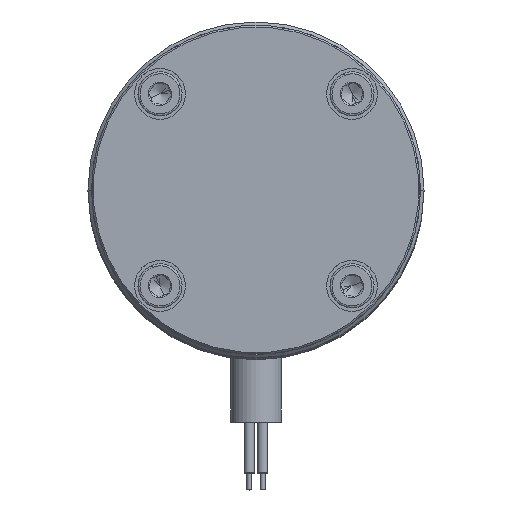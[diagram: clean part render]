
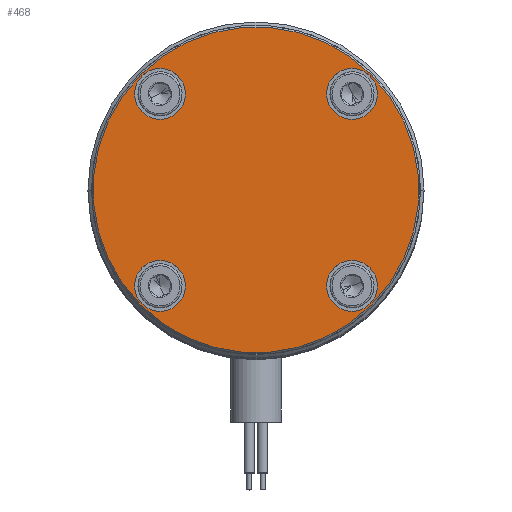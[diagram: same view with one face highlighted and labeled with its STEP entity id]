
A CAD part, top view. The second image highlights one B-rep face of the part: STEP entity #468.
In plain terms, the highlighted planar face has unit normal (0, 0, 1) as drawn and (0, 0, -1) by its records, which use the part's own axes.
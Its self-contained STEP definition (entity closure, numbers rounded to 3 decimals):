
#2 = CARTESIAN_POINT ( 'NONE',  ( 32.5, 0., 0. ) ) ;
#438 = AXIS2_PLACEMENT_3D ( 'NONE', #8336, #4999, #2296 ) ;
#444 = FACE_BOUND ( 'NONE', #2924, .T. ) ;
#468 = ADVANCED_FACE ( 'NONE', ( #5755, #444, #8394, #3125, #6525 ), #8521, .F. ) ;
#515 = VERTEX_POINT ( 'NONE', #5216 ) ;
#871 = CARTESIAN_POINT ( 'NONE',  ( 0., -40., 0. ) ) ;
#881 = ORIENTED_EDGE ( 'NONE', *, *, #4324, .F. ) ;
#1213 = EDGE_CURVE ( 'NONE', #515, #2797, #6517, .T. ) ;
#1222 = AXIS2_PLACEMENT_3D ( 'NONE', #871, #5506, #3550 ) ;
#1247 = CARTESIAN_POINT ( 'NONE',  ( 40., 0., 0. ) ) ;
#1269 = DIRECTION ( 'NONE',  ( 0., 0., -1. ) ) ;
#1434 = DIRECTION ( 'NONE',  ( 1., 0., 0. ) ) ;
#1503 = EDGE_CURVE ( 'NONE', #4054, #2354, #8238, .T. ) ;
#1525 = CARTESIAN_POINT ( 'NONE',  ( -40., 0., 0. ) ) ;
#1761 = AXIS2_PLACEMENT_3D ( 'NONE', #1525, #6120, #4807 ) ;
#1804 = DIRECTION ( 'NONE',  ( -1., 0., 0. ) ) ;
#1808 = ORIENTED_EDGE ( 'NONE', *, *, #5249, .F. ) ;
#1946 = EDGE_LOOP ( 'NONE', ( #6486, #2074 ) ) ;
#2074 = ORIENTED_EDGE ( 'NONE', *, *, #2293, .T. ) ;
#2123 = ORIENTED_EDGE ( 'NONE', *, *, #8108, .F. ) ;
#2153 = CARTESIAN_POINT ( 'NONE',  ( 0., 0., 0. ) ) ;
#2158 = ORIENTED_EDGE ( 'NONE', *, *, #4744, .F. ) ;
#2277 = VERTEX_POINT ( 'NONE', #4087 ) ;
#2293 = EDGE_CURVE ( 'NONE', #2797, #515, #7549, .T. ) ;
#2296 = DIRECTION ( 'NONE',  ( -1., 0., 0. ) ) ;
#2354 = VERTEX_POINT ( 'NONE', #5714 ) ;
#2582 = AXIS2_PLACEMENT_3D ( 'NONE', #7308, #1269, #3953 ) ;
#2672 = VERTEX_POINT ( 'NONE', #6056 ) ;
#2679 = EDGE_LOOP ( 'NONE', ( #4460, #3390 ) ) ;
#2797 = VERTEX_POINT ( 'NONE', #6464 ) ;
#2897 = CARTESIAN_POINT ( 'NONE',  ( -7.5, 40., 0. ) ) ;
#2924 = EDGE_LOOP ( 'NONE', ( #1808, #4912 ) ) ;
#3040 = DIRECTION ( 'NONE',  ( 0., 0., -1. ) ) ;
#3046 = CARTESIAN_POINT ( 'NONE',  ( 0., 40., 0. ) ) ;
#3125 = FACE_BOUND ( 'NONE', #8139, .T. ) ;
#3390 = ORIENTED_EDGE ( 'NONE', *, *, #6974, .F. ) ;
#3402 = CIRCLE ( 'NONE', #438, 7.5 ) ;
#3499 = EDGE_LOOP ( 'NONE', ( #8194, #2123 ) ) ;
#3530 = EDGE_CURVE ( 'NONE', #6889, #8447, #6695, .T. ) ;
#3545 = DIRECTION ( 'NONE',  ( 0., 0., -1. ) ) ;
#3550 = DIRECTION ( 'NONE',  ( -1., 0., 0. ) ) ;
#3610 = AXIS2_PLACEMENT_3D ( 'NONE', #3046, #8524, #4338 ) ;
#3652 = VERTEX_POINT ( 'NONE', #7613 ) ;
#3782 = DIRECTION ( 'NONE',  ( 0., 0., -1. ) ) ;
#3791 = CARTESIAN_POINT ( 'NONE',  ( 0., 0., 0. ) ) ;
#3953 = DIRECTION ( 'NONE',  ( -1., 0., 0. ) ) ;
#4054 = VERTEX_POINT ( 'NONE', #2 ) ;
#4087 = CARTESIAN_POINT ( 'NONE',  ( -7.5, -40., 0. ) ) ;
#4171 = CIRCLE ( 'NONE', #4447, 7.5 ) ;
#4324 = EDGE_CURVE ( 'NONE', #2672, #2277, #6856, .T. ) ;
#4338 = DIRECTION ( 'NONE',  ( -1., 0., 0. ) ) ;
#4382 = EDGE_CURVE ( 'NONE', #3652, #4864, #7981, .T. ) ;
#4395 = AXIS2_PLACEMENT_3D ( 'NONE', #7041, #3782, #5069 ) ;
#4447 = AXIS2_PLACEMENT_3D ( 'NONE', #7726, #3040, #8297 ) ;
#4460 = ORIENTED_EDGE ( 'NONE', *, *, #4382, .F. ) ;
#4695 = CIRCLE ( 'NONE', #4395, 7.5 ) ;
#4744 = EDGE_CURVE ( 'NONE', #2277, #2672, #4171, .T. ) ;
#4807 = DIRECTION ( 'NONE',  ( -1., 0., 0. ) ) ;
#4864 = VERTEX_POINT ( 'NONE', #4997 ) ;
#4866 = DIRECTION ( 'NONE',  ( 0., 0., -1. ) ) ;
#4880 = AXIS2_PLACEMENT_3D ( 'NONE', #6895, #3545, #1434 ) ;
#4912 = ORIENTED_EDGE ( 'NONE', *, *, #3530, .F. ) ;
#4997 = CARTESIAN_POINT ( 'NONE',  ( -32.5, 0., 0. ) ) ;
#4999 = DIRECTION ( 'NONE',  ( 0., 0., -1. ) ) ;
#5069 = DIRECTION ( 'NONE',  ( -1., 0., 0. ) ) ;
#5216 = CARTESIAN_POINT ( 'NONE',  ( 48., 0., 0. ) ) ;
#5249 = EDGE_CURVE ( 'NONE', #8447, #6889, #3402, .T. ) ;
#5264 = DIRECTION ( 'NONE',  ( 0., 0., -1. ) ) ;
#5506 = DIRECTION ( 'NONE',  ( 0., 0., -1. ) ) ;
#5563 = AXIS2_PLACEMENT_3D ( 'NONE', #2153, #4866, #6742 ) ;
#5714 = CARTESIAN_POINT ( 'NONE',  ( 47.5, 0., 0. ) ) ;
#5755 = FACE_OUTER_BOUND ( 'NONE', #1946, .T. ) ;
#5882 = DIRECTION ( 'NONE',  ( 0., 0., 1. ) ) ;
#6056 = CARTESIAN_POINT ( 'NONE',  ( 7.5, -40., 0. ) ) ;
#6120 = DIRECTION ( 'NONE',  ( 0., 0., -1. ) ) ;
#6310 = CARTESIAN_POINT ( 'NONE',  ( 7.5, 40., 0. ) ) ;
#6464 = CARTESIAN_POINT ( 'NONE',  ( -48., 0., 0. ) ) ;
#6479 = DIRECTION ( 'NONE',  ( 1., 0., 0. ) ) ;
#6486 = ORIENTED_EDGE ( 'NONE', *, *, #1213, .T. ) ;
#6514 = AXIS2_PLACEMENT_3D ( 'NONE', #1247, #5264, #1804 ) ;
#6517 = CIRCLE ( 'NONE', #5563, 48. ) ;
#6525 = FACE_BOUND ( 'NONE', #3499, .T. ) ;
#6695 = CIRCLE ( 'NONE', #3610, 7.5 ) ;
#6742 = DIRECTION ( 'NONE',  ( 1., 0., 0. ) ) ;
#6856 = CIRCLE ( 'NONE', #1222, 7.5 ) ;
#6889 = VERTEX_POINT ( 'NONE', #6310 ) ;
#6895 = CARTESIAN_POINT ( 'NONE',  ( 0., 0., 0. ) ) ;
#6974 = EDGE_CURVE ( 'NONE', #4864, #3652, #4695, .T. ) ;
#7041 = CARTESIAN_POINT ( 'NONE',  ( -40., 0., 0. ) ) ;
#7308 = CARTESIAN_POINT ( 'NONE',  ( 40., 0., 0. ) ) ;
#7549 = CIRCLE ( 'NONE', #4880, 48. ) ;
#7613 = CARTESIAN_POINT ( 'NONE',  ( -47.5, 0., 0. ) ) ;
#7726 = CARTESIAN_POINT ( 'NONE',  ( 0., -40., 0. ) ) ;
#7940 = CIRCLE ( 'NONE', #6514, 7.5 ) ;
#7981 = CIRCLE ( 'NONE', #1761, 7.5 ) ;
#8108 = EDGE_CURVE ( 'NONE', #2354, #4054, #7940, .T. ) ;
#8139 = EDGE_LOOP ( 'NONE', ( #2158, #881 ) ) ;
#8194 = ORIENTED_EDGE ( 'NONE', *, *, #1503, .F. ) ;
#8238 = CIRCLE ( 'NONE', #2582, 7.5 ) ;
#8297 = DIRECTION ( 'NONE',  ( -1., 0., 0. ) ) ;
#8336 = CARTESIAN_POINT ( 'NONE',  ( 0., 40., 0. ) ) ;
#8394 = FACE_BOUND ( 'NONE', #2679, .T. ) ;
#8447 = VERTEX_POINT ( 'NONE', #2897 ) ;
#8477 = AXIS2_PLACEMENT_3D ( 'NONE', #3791, #5882, #6479 ) ;
#8521 = PLANE ( 'NONE',  #8477 ) ;
#8524 = DIRECTION ( 'NONE',  ( 0., 0., -1. ) ) ;
